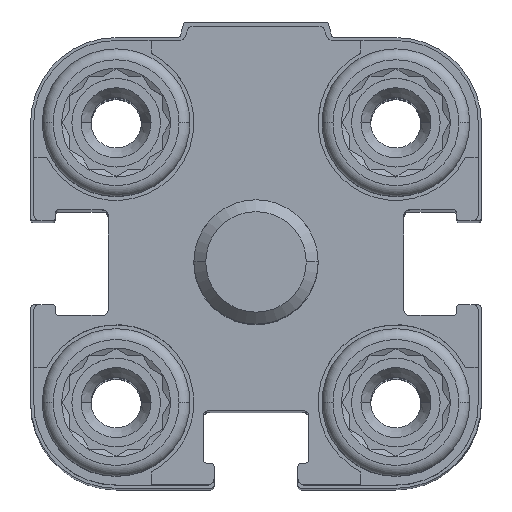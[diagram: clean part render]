
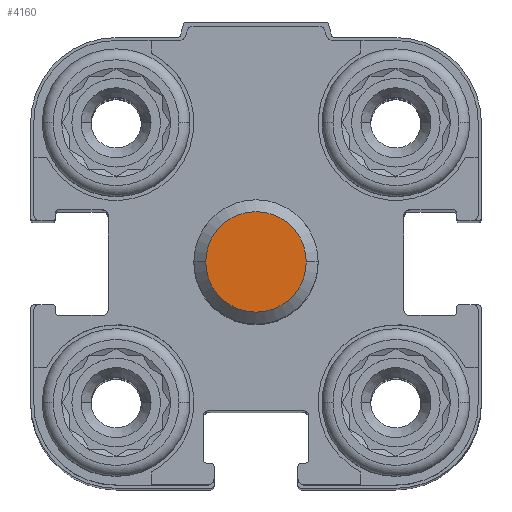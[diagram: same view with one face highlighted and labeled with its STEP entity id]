
A CAD part, top view. The second image highlights one B-rep face of the part: STEP entity #4160.
In plain terms, the highlighted planar face has unit normal (0, 0, 1).
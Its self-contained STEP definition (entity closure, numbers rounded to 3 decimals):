
#75 = EDGE_CURVE ( 'NONE', #17149, #16535, #10269, .T. ) ;
#766 = PLANE ( 'NONE',  #1602 ) ;
#1602 = AXIS2_PLACEMENT_3D ( 'NONE', #11531, #1836, #3276 ) ;
#1836 = DIRECTION ( 'NONE',  ( 0., 0., -1. ) ) ;
#2967 = DIRECTION ( 'NONE',  ( -1., 0., 0. ) ) ;
#3276 = DIRECTION ( 'NONE',  ( 0., 1., 0. ) ) ;
#4160 = ADVANCED_FACE ( 'NONE', ( #8933 ), #766, .F. ) ;
#5889 = EDGE_CURVE ( 'NONE', #16535, #17149, #10607, .T. ) ;
#7007 = DIRECTION ( 'NONE',  ( 0., 0., -1. ) ) ;
#7496 = DIRECTION ( 'NONE',  ( -1., 0., 0. ) ) ;
#8173 = CARTESIAN_POINT ( 'NONE',  ( 0., 0., 24.5 ) ) ;
#8562 = CARTESIAN_POINT ( 'NONE',  ( -3.233, 0., 24.5 ) ) ;
#8668 = CARTESIAN_POINT ( 'NONE',  ( 0., 0., 24.5 ) ) ;
#8702 = CARTESIAN_POINT ( 'NONE',  ( 3.233, 0., 24.5 ) ) ;
#8840 = DIRECTION ( 'NONE',  ( 0., 0., -1. ) ) ;
#8933 = FACE_OUTER_BOUND ( 'NONE', #14226, .T. ) ;
#9176 = AXIS2_PLACEMENT_3D ( 'NONE', #8173, #7007, #2967 ) ;
#10269 = CIRCLE ( 'NONE', #17444, 3.233 ) ;
#10607 = CIRCLE ( 'NONE', #9176, 3.233 ) ;
#11531 = CARTESIAN_POINT ( 'NONE',  ( 0., 0., 24.5 ) ) ;
#14053 = ORIENTED_EDGE ( 'NONE', *, *, #5889, .F. ) ;
#14226 = EDGE_LOOP ( 'NONE', ( #14053, #14678 ) ) ;
#14678 = ORIENTED_EDGE ( 'NONE', *, *, #75, .F. ) ;
#16535 = VERTEX_POINT ( 'NONE', #8562 ) ;
#17149 = VERTEX_POINT ( 'NONE', #8702 ) ;
#17444 = AXIS2_PLACEMENT_3D ( 'NONE', #8668, #8840, #7496 ) ;
